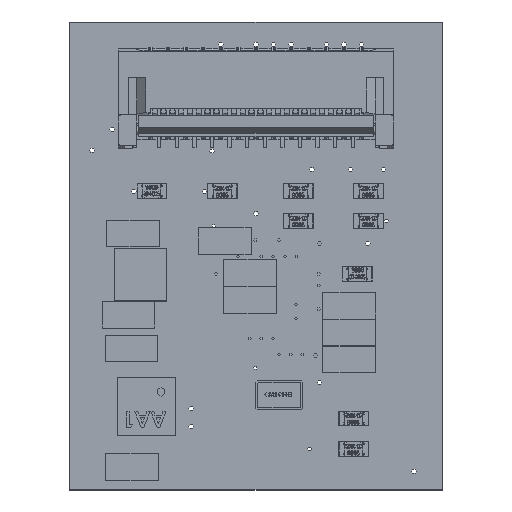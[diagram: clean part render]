
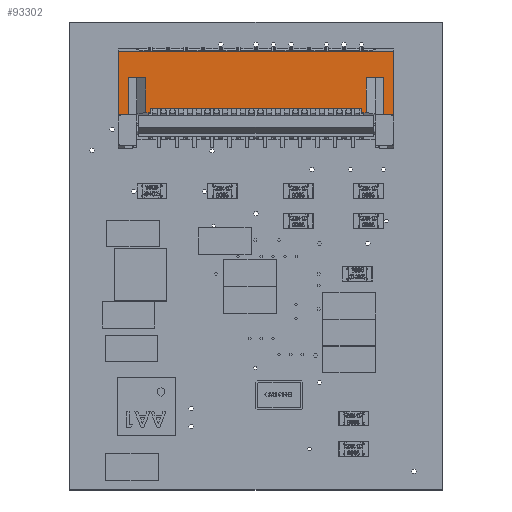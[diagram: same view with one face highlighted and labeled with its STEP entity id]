
A CAD part, top view. The second image highlights one B-rep face of the part: STEP entity #93302.
In plain terms, the highlighted planar face has unit normal (0, 0, 1).
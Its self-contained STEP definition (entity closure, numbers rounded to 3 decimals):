
#1993 = DIRECTION ( 'NONE',  ( 0., -1., 0. ) ) ;
#6040 = CARTESIAN_POINT ( 'NONE',  ( 1.65, 12.785, 1.887 ) ) ;
#7363 = VERTEX_POINT ( 'NONE', #25641 ) ;
#9733 = CARTESIAN_POINT ( 'NONE',  ( 1.65, 11.635, 1.887 ) ) ;
#10027 = VERTEX_POINT ( 'NONE', #90140 ) ;
#15144 = VECTOR ( 'NONE', #74745, 1000. ) ;
#16029 = CARTESIAN_POINT ( 'NONE',  ( 9.95, 12.985, 1.887 ) ) ;
#16447 = VECTOR ( 'NONE', #99130, 1000. ) ;
#23842 = LINE ( 'NONE', #148314, #132406 ) ;
#24768 = EDGE_CURVE ( 'NONE', #177089, #62025, #174639, .T. ) ;
#24963 = VECTOR ( 'NONE', #66197, 1000. ) ;
#25067 = VECTOR ( 'NONE', #59143, 1000. ) ;
#25071 = VECTOR ( 'NONE', #152216, 1000. ) ;
#25641 = CARTESIAN_POINT ( 'NONE',  ( 9.95, 12.863, 1.887 ) ) ;
#26825 = ORIENTED_EDGE ( 'NONE', *, *, #156500, .T. ) ;
#28265 = LINE ( 'NONE', #89974, #15144 ) ;
#30255 = CARTESIAN_POINT ( 'NONE',  ( 2.59, 12.863, 1.887 ) ) ;
#32013 = EDGE_CURVE ( 'NONE', #7363, #10027, #57877, .T. ) ;
#35133 = CARTESIAN_POINT ( 'NONE',  ( 1.65, 12.785, 1.887 ) ) ;
#37424 = DIRECTION ( 'NONE',  ( 1., 0., 0. ) ) ;
#37818 = DIRECTION ( 'NONE',  ( 0., 1., 0. ) ) ;
#39671 = CARTESIAN_POINT ( 'NONE',  ( 2.75, 12.985, 1.887 ) ) ;
#40702 = CARTESIAN_POINT ( 'NONE',  ( 1.65, 12.863, 1.887 ) ) ;
#40934 = CARTESIAN_POINT ( 'NONE',  ( 2., 12.785, 1.887 ) ) ;
#41084 = LINE ( 'NONE', #9733, #59405 ) ;
#43093 = ORIENTED_EDGE ( 'NONE', *, *, #32013, .T. ) ;
#48892 = VERTEX_POINT ( 'NONE', #54195 ) ;
#51801 = VECTOR ( 'NONE', #79458, 1000. ) ;
#52318 = ORIENTED_EDGE ( 'NONE', *, *, #195091, .F. ) ;
#52531 = AXIS2_PLACEMENT_3D ( 'NONE', #153920, #168175, #74848 ) ;
#53808 = ORIENTED_EDGE ( 'NONE', *, *, #86696, .T. ) ;
#54195 = CARTESIAN_POINT ( 'NONE',  ( 11.05, 12.785, 1.887 ) ) ;
#54281 = VERTEX_POINT ( 'NONE', #116112 ) ;
#55967 = LINE ( 'NONE', #192845, #140697 ) ;
#57484 = VERTEX_POINT ( 'NONE', #102712 ) ;
#57877 = LINE ( 'NONE', #40702, #109762 ) ;
#59143 = DIRECTION ( 'NONE',  ( 0., 1., 0. ) ) ;
#59405 = VECTOR ( 'NONE', #133269, 1000. ) ;
#60143 = CARTESIAN_POINT ( 'NONE',  ( 10.11, 11.635, 1.887 ) ) ;
#60805 = VECTOR ( 'NONE', #171537, 1000. ) ;
#62025 = VERTEX_POINT ( 'NONE', #30255 ) ;
#65300 = VERTEX_POINT ( 'NONE', #35133 ) ;
#66197 = DIRECTION ( 'NONE',  ( 0., -1., 0. ) ) ;
#67399 = ORIENTED_EDGE ( 'NONE', *, *, #24768, .T. ) ;
#68259 = CARTESIAN_POINT ( 'NONE',  ( 11.05, 14.935, 1.887 ) ) ;
#68406 = ORIENTED_EDGE ( 'NONE', *, *, #75482, .T. ) ;
#68576 = ORIENTED_EDGE ( 'NONE', *, *, #157162, .F. ) ;
#70274 = DIRECTION ( 'NONE',  ( -1., 0., 0. ) ) ;
#73158 = CARTESIAN_POINT ( 'NONE',  ( 11.05, 11.635, 1.887 ) ) ;
#74745 = DIRECTION ( 'NONE',  ( 1., 0., 0. ) ) ;
#74848 = DIRECTION ( 'NONE',  ( 0., 1., 0. ) ) ;
#75482 = EDGE_CURVE ( 'NONE', #193444, #111097, #192436, .T. ) ;
#79458 = DIRECTION ( 'NONE',  ( 0., 1., 0. ) ) ;
#80233 = CARTESIAN_POINT ( 'NONE',  ( 1.65, 14.05, 1.887 ) ) ;
#80986 = CARTESIAN_POINT ( 'NONE',  ( 2.75, 12.863, 1.887 ) ) ;
#81757 = VERTEX_POINT ( 'NONE', #168475 ) ;
#83406 = CARTESIAN_POINT ( 'NONE',  ( 2.75, 11.635, 1.887 ) ) ;
#83919 = CARTESIAN_POINT ( 'NONE',  ( 1.65, 12.985, 1.887 ) ) ;
#85950 = ORIENTED_EDGE ( 'NONE', *, *, #114907, .T. ) ;
#86696 = EDGE_CURVE ( 'NONE', #91775, #171610, #139752, .T. ) ;
#89091 = PLANE ( 'NONE',  #52531 ) ;
#89449 = EDGE_LOOP ( 'NONE', ( #117245, #118316, #68406, #26825, #43093, #107035, #127895, #108551, #168235, #52318, #123140, #68576, #85950, #53808, #90898, #67399 ) ) ;
#89974 = CARTESIAN_POINT ( 'NONE',  ( 1.65, 12.785, 1.887 ) ) ;
#90140 = CARTESIAN_POINT ( 'NONE',  ( 10.11, 12.863, 1.887 ) ) ;
#90268 = CARTESIAN_POINT ( 'NONE',  ( 6.35, 14.05, 1.887 ) ) ;
#90898 = ORIENTED_EDGE ( 'NONE', *, *, #106210, .F. ) ;
#91775 = VERTEX_POINT ( 'NONE', #40934 ) ;
#93302 = ADVANCED_FACE ( 'NONE', ( #181358 ), #89091, .T. ) ;
#93805 = CARTESIAN_POINT ( 'NONE',  ( 10.11, 14.05, 1.887 ) ) ;
#98208 = EDGE_CURVE ( 'NONE', #193137, #81757, #23842, .T. ) ;
#98635 = LINE ( 'NONE', #83406, #51801 ) ;
#99130 = DIRECTION ( 'NONE',  ( 1., 0., 0. ) ) ;
#102712 = CARTESIAN_POINT ( 'NONE',  ( 10.7, 12.785, 1.887 ) ) ;
#104354 = VECTOR ( 'NONE', #1993, 1000. ) ;
#104459 = DIRECTION ( 'NONE',  ( 1., 0., 0. ) ) ;
#106210 = EDGE_CURVE ( 'NONE', #177089, #171610, #150092, .T. ) ;
#107035 = ORIENTED_EDGE ( 'NONE', *, *, #114007, .T. ) ;
#108551 = ORIENTED_EDGE ( 'NONE', *, *, #178080, .F. ) ;
#109306 = CARTESIAN_POINT ( 'NONE',  ( 2., 12.863, 1.887 ) ) ;
#109762 = VECTOR ( 'NONE', #104459, 1000. ) ;
#111097 = VERTEX_POINT ( 'NONE', #16029 ) ;
#111324 = LINE ( 'NONE', #139730, #104354 ) ;
#113797 = CARTESIAN_POINT ( 'NONE',  ( 2.59, 11.635, 1.887 ) ) ;
#114007 = EDGE_CURVE ( 'NONE', #10027, #127326, #151285, .T. ) ;
#114907 = EDGE_CURVE ( 'NONE', #65300, #91775, #126595, .T. ) ;
#116112 = CARTESIAN_POINT ( 'NONE',  ( 10.7, 14.05, 1.887 ) ) ;
#117245 = ORIENTED_EDGE ( 'NONE', *, *, #131584, .T. ) ;
#118316 = ORIENTED_EDGE ( 'NONE', *, *, #185663, .T. ) ;
#121154 = VECTOR ( 'NONE', #139723, 1000. ) ;
#122602 = DIRECTION ( 'NONE',  ( 0., 1., 0. ) ) ;
#123140 = ORIENTED_EDGE ( 'NONE', *, *, #98208, .T. ) ;
#123551 = VECTOR ( 'NONE', #122602, 1000. ) ;
#123838 = VECTOR ( 'NONE', #37424, 1000. ) ;
#124583 = LINE ( 'NONE', #109306, #121154 ) ;
#124915 = LINE ( 'NONE', #80233, #60805 ) ;
#126595 = LINE ( 'NONE', #6040, #16447 ) ;
#127326 = VERTEX_POINT ( 'NONE', #93805 ) ;
#127895 = ORIENTED_EDGE ( 'NONE', *, *, #166330, .T. ) ;
#131584 = EDGE_CURVE ( 'NONE', #62025, #136447, #124583, .T. ) ;
#132406 = VECTOR ( 'NONE', #70274, 1000. ) ;
#133269 = DIRECTION ( 'NONE',  ( 0., 1., 0. ) ) ;
#136447 = VERTEX_POINT ( 'NONE', #80986 ) ;
#138000 = LINE ( 'NONE', #73158, #25071 ) ;
#139723 = DIRECTION ( 'NONE',  ( 1., 0., 0. ) ) ;
#139730 = CARTESIAN_POINT ( 'NONE',  ( 9.95, 11.635, 1.887 ) ) ;
#139752 = LINE ( 'NONE', #141719, #123551 ) ;
#140697 = VECTOR ( 'NONE', #37818, 1000. ) ;
#141719 = CARTESIAN_POINT ( 'NONE',  ( 2., 11.635, 1.887 ) ) ;
#146212 = CARTESIAN_POINT ( 'NONE',  ( 2., 14.05, 1.887 ) ) ;
#148314 = CARTESIAN_POINT ( 'NONE',  ( 1.65, 14.935, 1.887 ) ) ;
#150092 = LINE ( 'NONE', #90268, #158761 ) ;
#151285 = LINE ( 'NONE', #60143, #25067 ) ;
#151436 = CARTESIAN_POINT ( 'NONE',  ( 2.59, 14.05, 1.887 ) ) ;
#152216 = DIRECTION ( 'NONE',  ( 0., -1., 0. ) ) ;
#153920 = CARTESIAN_POINT ( 'NONE',  ( 1.65, 11.635, 1.887 ) ) ;
#156500 = EDGE_CURVE ( 'NONE', #111097, #7363, #111324, .T. ) ;
#157162 = EDGE_CURVE ( 'NONE', #65300, #81757, #41084, .T. ) ;
#158761 = VECTOR ( 'NONE', #179548, 1000. ) ;
#159013 = EDGE_CURVE ( 'NONE', #57484, #48892, #28265, .T. ) ;
#166330 = EDGE_CURVE ( 'NONE', #127326, #54281, #124915, .T. ) ;
#168175 = DIRECTION ( 'NONE',  ( 0., 0., 1. ) ) ;
#168235 = ORIENTED_EDGE ( 'NONE', *, *, #159013, .T. ) ;
#168475 = CARTESIAN_POINT ( 'NONE',  ( 1.65, 14.935, 1.887 ) ) ;
#171537 = DIRECTION ( 'NONE',  ( 1., 0., 0. ) ) ;
#171610 = VERTEX_POINT ( 'NONE', #146212 ) ;
#174639 = LINE ( 'NONE', #113797, #24963 ) ;
#177089 = VERTEX_POINT ( 'NONE', #151436 ) ;
#178080 = EDGE_CURVE ( 'NONE', #57484, #54281, #55967, .T. ) ;
#179548 = DIRECTION ( 'NONE',  ( -1., 0., 0. ) ) ;
#181358 = FACE_OUTER_BOUND ( 'NONE', #89449, .T. ) ;
#185663 = EDGE_CURVE ( 'NONE', #136447, #193444, #98635, .T. ) ;
#192436 = LINE ( 'NONE', #83919, #123838 ) ;
#192845 = CARTESIAN_POINT ( 'NONE',  ( 10.7, 13.335, 1.887 ) ) ;
#193137 = VERTEX_POINT ( 'NONE', #68259 ) ;
#193444 = VERTEX_POINT ( 'NONE', #39671 ) ;
#195091 = EDGE_CURVE ( 'NONE', #193137, #48892, #138000, .T. ) ;
